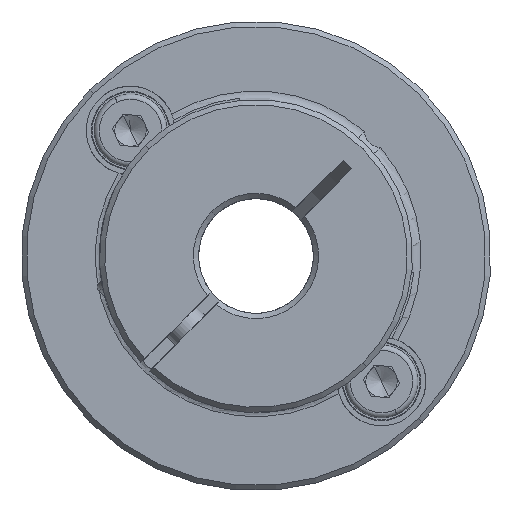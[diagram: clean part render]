
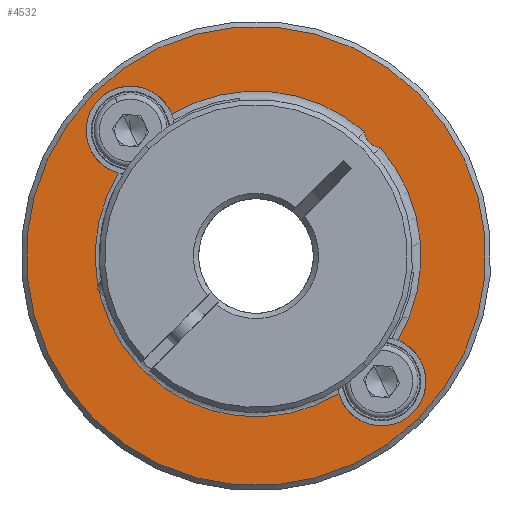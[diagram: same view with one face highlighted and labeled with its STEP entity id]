
A CAD part, front view. The second image highlights one B-rep face of the part: STEP entity #4532.
In plain terms, the highlighted planar face has unit normal (0, -1, 0).
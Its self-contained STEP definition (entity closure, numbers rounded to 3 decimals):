
#3 = VERTEX_POINT ( 'NONE', #2036 ) ;
#187 = CARTESIAN_POINT ( 'NONE',  ( -17.557, 21.413, 58.94 ) ) ;
#318 = CARTESIAN_POINT ( 'NONE',  ( 13.026, 21.413, 28.358 ) ) ;
#467 = ORIENTED_EDGE ( 'NONE', *, *, #11528, .T. ) ;
#562 = VERTEX_POINT ( 'NONE', #1328 ) ;
#714 = EDGE_CURVE ( 'NONE', #562, #4602, #4895, .T. ) ;
#728 = PLANE ( 'NONE',  #3355 ) ;
#881 = DIRECTION ( 'NONE',  ( 0., 1., 0. ) ) ;
#1101 = AXIS2_PLACEMENT_3D ( 'NONE', #4234, #1332, #4193 ) ;
#1127 = CIRCLE ( 'NONE', #3986, 15.4 ) ;
#1212 = AXIS2_PLACEMENT_3D ( 'NONE', #9606, #881, #7590 ) ;
#1238 = AXIS2_PLACEMENT_3D ( 'NONE', #1546, #6400, #6516 ) ;
#1328 = CARTESIAN_POINT ( 'NONE',  ( 11.054, 21.413, 35.845 ) ) ;
#1332 = DIRECTION ( 'NONE',  ( 0., 1., 0. ) ) ;
#1546 = CARTESIAN_POINT ( 'NONE',  ( 9.49, 21.413, 31.893 ) ) ;
#1847 = DIRECTION ( 'NONE',  ( 0., 1., 0. ) ) ;
#2036 = CARTESIAN_POINT ( 'NONE',  ( 5.406, 21.413, 30.717 ) ) ;
#2058 = ORIENTED_EDGE ( 'NONE', *, *, #5485, .T. ) ;
#2115 = EDGE_LOOP ( 'NONE', ( #8831, #2058 ) ) ;
#2174 = AXIS2_PLACEMENT_3D ( 'NONE', #11967, #9048, #5238 ) ;
#2352 = DIRECTION ( 'NONE',  ( 0., -1., 0. ) ) ;
#2546 = CARTESIAN_POINT ( 'NONE',  ( -13.688, 21.413, 33.299 ) ) ;
#2721 = DIRECTION ( 'NONE',  ( 0., -1., 0. ) ) ;
#2742 = DIRECTION ( 'NONE',  ( -0.707, 0., 0.707 ) ) ;
#2788 = DIRECTION ( 'NONE',  ( 0., 1., 0. ) ) ;
#2884 = EDGE_LOOP ( 'NONE', ( #3458, #11507, #6930, #7599, #467, #12445, #8945, #6461, #6495, #10626 ) ) ;
#3103 = AXIS2_PLACEMENT_3D ( 'NONE', #5952, #9733, #3947 ) ;
#3138 = CARTESIAN_POINT ( 'NONE',  ( 9.386, 21.413, 54.288 ) ) ;
#3275 = CIRCLE ( 'NONE', #1101, 4.25 ) ;
#3355 = AXIS2_PLACEMENT_3D ( 'NONE', #7598, #2721, #7434 ) ;
#3373 = CARTESIAN_POINT ( 'NONE',  ( 12.495, 21.413, 28.888 ) ) ;
#3420 = VERTEX_POINT ( 'NONE', #8644 ) ;
#3458 = ORIENTED_EDGE ( 'NONE', *, *, #6490, .T. ) ;
#3476 = VERTEX_POINT ( 'NONE', #3138 ) ;
#3495 = DIRECTION ( 'NONE',  ( -0.707, 0., 0.707 ) ) ;
#3575 = AXIS2_PLACEMENT_3D ( 'NONE', #4507, #8557, #6421 ) ;
#3734 = VERTEX_POINT ( 'NONE', #318 ) ;
#3947 = DIRECTION ( 'NONE',  ( -0.707, 0., 0.707 ) ) ;
#3986 = AXIS2_PLACEMENT_3D ( 'NONE', #5690, #1847, #2742 ) ;
#4177 = CIRCLE ( 'NONE', #3575, 22. ) ;
#4193 = DIRECTION ( 'NONE',  ( -0.707, 0., 0.707 ) ) ;
#4234 = CARTESIAN_POINT ( 'NONE',  ( 9.49, 21.413, 31.893 ) ) ;
#4507 = CARTESIAN_POINT ( 'NONE',  ( -2.531, 21.413, 43.914 ) ) ;
#4532 = ADVANCED_FACE ( 'NONE', ( #5422, #6769 ), #728, .T. ) ;
#4602 = VERTEX_POINT ( 'NONE', #3373 ) ;
#4723 = DIRECTION ( 'NONE',  ( -0.707, 0., 0.707 ) ) ;
#4770 = CARTESIAN_POINT ( 'NONE',  ( -14.552, 21.413, 55.935 ) ) ;
#4821 = VERTEX_POINT ( 'NONE', #187 ) ;
#4895 = CIRCLE ( 'NONE', #1238, 4.25 ) ;
#5129 = B_SPLINE_CURVE_WITH_KNOTS ( 'NONE', 3,
 ( #12132, #10193, #5273, #2546 ),
 .UNSPECIFIED., .F., .F.,
 ( 4, 4 ),
 ( 0., 1. ),
 .UNSPECIFIED. ) ;
#5238 = DIRECTION ( 'NONE',  ( -0.707, 0., 0.707 ) ) ;
#5273 = CARTESIAN_POINT ( 'NONE',  ( -13.464, 21.413, 33.162 ) ) ;
#5422 = FACE_BOUND ( 'NONE', #2884, .T. ) ;
#5485 = EDGE_CURVE ( 'NONE', #9501, #3734, #10615, .T. ) ;
#5690 = CARTESIAN_POINT ( 'NONE',  ( -2.531, 21.413, 43.914 ) ) ;
#5730 = CARTESIAN_POINT ( 'NONE',  ( -2.531, 21.413, 43.914 ) ) ;
#5952 = CARTESIAN_POINT ( 'NONE',  ( -14.552, 21.413, 55.935 ) ) ;
#5993 = CIRCLE ( 'NONE', #3103, 4.25 ) ;
#6086 = CARTESIAN_POINT ( 'NONE',  ( 9.49, 21.413, 55.935 ) ) ;
#6175 = CARTESIAN_POINT ( 'NONE',  ( -15.728, 21.413, 51.851 ) ) ;
#6400 = DIRECTION ( 'NONE',  ( 0., 1., 0. ) ) ;
#6417 = AXIS2_PLACEMENT_3D ( 'NONE', #8286, #12233, #3495 ) ;
#6421 = DIRECTION ( 'NONE',  ( -0.707, 0., 0.707 ) ) ;
#6461 = ORIENTED_EDGE ( 'NONE', *, *, #6469, .T. ) ;
#6469 = EDGE_CURVE ( 'NONE', #7473, #4821, #10443, .T. ) ;
#6490 = EDGE_CURVE ( 'NONE', #3420, #3476, #6974, .T. ) ;
#6495 = ORIENTED_EDGE ( 'NONE', *, *, #10605, .T. ) ;
#6516 = DIRECTION ( 'NONE',  ( -0.707, 0., 0.707 ) ) ;
#6725 = CIRCLE ( 'NONE', #6417, 15.4 ) ;
#6739 = EDGE_CURVE ( 'NONE', #7433, #7473, #1127, .T. ) ;
#6769 = FACE_OUTER_BOUND ( 'NONE', #2115, .T. ) ;
#6930 = ORIENTED_EDGE ( 'NONE', *, *, #714, .T. ) ;
#6951 = VERTEX_POINT ( 'NONE', #9632 ) ;
#6974 = CIRCLE ( 'NONE', #10058, 1.65 ) ;
#7280 = EDGE_CURVE ( 'NONE', #7719, #3420, #11622, .T. ) ;
#7433 = VERTEX_POINT ( 'NONE', #9051 ) ;
#7434 = DIRECTION ( 'NONE',  ( 0.145, 0., -0.989 ) ) ;
#7473 = VERTEX_POINT ( 'NONE', #6175 ) ;
#7528 = DIRECTION ( 'NONE',  ( 0., 1., 0. ) ) ;
#7590 = DIRECTION ( 'NONE',  ( -0.707, 0., 0.707 ) ) ;
#7598 = CARTESIAN_POINT ( 'NONE',  ( 9.49, 21.413, 55.935 ) ) ;
#7599 = ORIENTED_EDGE ( 'NONE', *, *, #11375, .T. ) ;
#7719 = VERTEX_POINT ( 'NONE', #9551 ) ;
#8286 = CARTESIAN_POINT ( 'NONE',  ( -2.531, 21.413, 43.914 ) ) ;
#8557 = DIRECTION ( 'NONE',  ( 0., -1., 0. ) ) ;
#8644 = CARTESIAN_POINT ( 'NONE',  ( 7.843, 21.413, 55.831 ) ) ;
#8831 = ORIENTED_EDGE ( 'NONE', *, *, #10567, .T. ) ;
#8945 = ORIENTED_EDGE ( 'NONE', *, *, #6739, .T. ) ;
#9048 = DIRECTION ( 'NONE',  ( 0., -1., 0. ) ) ;
#9051 = CARTESIAN_POINT ( 'NONE',  ( -13.688, 21.413, 33.299 ) ) ;
#9264 = EDGE_CURVE ( 'NONE', #3476, #562, #9636, .T. ) ;
#9501 = VERTEX_POINT ( 'NONE', #11167 ) ;
#9551 = CARTESIAN_POINT ( 'NONE',  ( -10.6, 21.413, 57.498 ) ) ;
#9606 = CARTESIAN_POINT ( 'NONE',  ( -2.531, 21.413, 43.914 ) ) ;
#9632 = CARTESIAN_POINT ( 'NONE',  ( -13.145, 21.413, 32.757 ) ) ;
#9636 = CIRCLE ( 'NONE', #11621, 15.8 ) ;
#9733 = DIRECTION ( 'NONE',  ( 0., 1., 0. ) ) ;
#9889 = AXIS2_PLACEMENT_3D ( 'NONE', #4770, #2788, #4723 ) ;
#10058 = AXIS2_PLACEMENT_3D ( 'NONE', #6086, #2352, #10917 ) ;
#10193 = CARTESIAN_POINT ( 'NONE',  ( -13.283, 21.413, 32.981 ) ) ;
#10443 = CIRCLE ( 'NONE', #9889, 4.25 ) ;
#10567 = EDGE_CURVE ( 'NONE', #3734, #9501, #4177, .T. ) ;
#10605 = EDGE_CURVE ( 'NONE', #4821, #7719, #5993, .T. ) ;
#10615 = CIRCLE ( 'NONE', #2174, 22. ) ;
#10626 = ORIENTED_EDGE ( 'NONE', *, *, #7280, .T. ) ;
#10850 = EDGE_CURVE ( 'NONE', #6951, #7433, #5129, .T. ) ;
#10917 = DIRECTION ( 'NONE',  ( 1., 0., 0. ) ) ;
#11167 = CARTESIAN_POINT ( 'NONE',  ( -18.087, 21.413, 59.47 ) ) ;
#11375 = EDGE_CURVE ( 'NONE', #4602, #3, #3275, .T. ) ;
#11446 = DIRECTION ( 'NONE',  ( -0.707, 0., 0.707 ) ) ;
#11507 = ORIENTED_EDGE ( 'NONE', *, *, #9264, .T. ) ;
#11528 = EDGE_CURVE ( 'NONE', #3, #6951, #6725, .T. ) ;
#11621 = AXIS2_PLACEMENT_3D ( 'NONE', #5730, #7528, #11446 ) ;
#11622 = CIRCLE ( 'NONE', #1212, 15.8 ) ;
#11967 = CARTESIAN_POINT ( 'NONE',  ( -2.531, 21.413, 43.914 ) ) ;
#12132 = CARTESIAN_POINT ( 'NONE',  ( -13.145, 21.413, 32.757 ) ) ;
#12233 = DIRECTION ( 'NONE',  ( 0., 1., 0. ) ) ;
#12445 = ORIENTED_EDGE ( 'NONE', *, *, #10850, .T. ) ;
